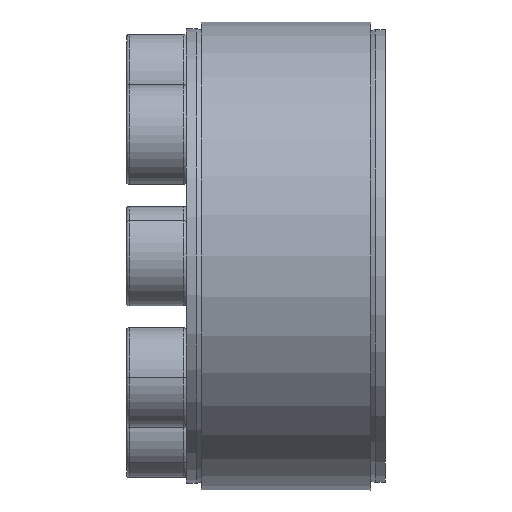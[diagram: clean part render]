
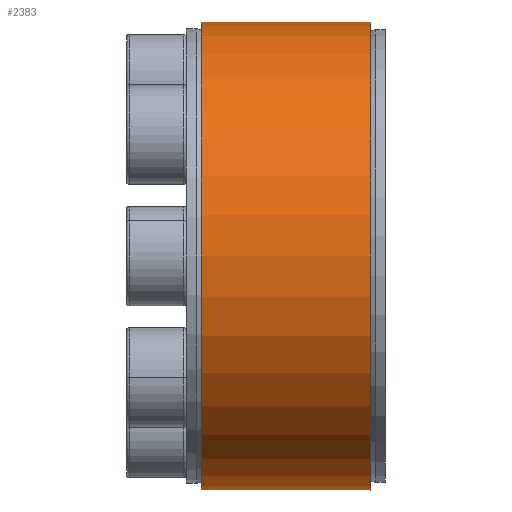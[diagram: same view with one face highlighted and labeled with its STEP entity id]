
A CAD part, front view. The second image highlights one B-rep face of the part: STEP entity #2383.
In plain terms, the highlighted cylindrical face has radius 23.5 mm (diameter 47 mm), a partial arc.
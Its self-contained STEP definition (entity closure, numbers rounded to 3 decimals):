
#53 = VERTEX_POINT ( 'NONE', #1956 ) ;
#80 = CARTESIAN_POINT ( 'NONE',  ( -8.5, 0.017, -23.5 ) ) ;
#444 = CARTESIAN_POINT ( 'NONE',  ( 8.5, 0.017, 0. ) ) ;
#673 = EDGE_CURVE ( 'NONE', #4643, #1615, #5323, .T. ) ;
#784 = CYLINDRICAL_SURFACE ( 'NONE', #5519, 23.5 ) ;
#841 = CIRCLE ( 'NONE', #4823, 23.5 ) ;
#912 = DIRECTION ( 'NONE',  ( 0., 0., 1. ) ) ;
#1222 = CARTESIAN_POINT ( 'NONE',  ( -8.5, 0.017, 23.5 ) ) ;
#1471 = VECTOR ( 'NONE', #5082, 1000. ) ;
#1568 = EDGE_LOOP ( 'NONE', ( #3333, #3832, #2034, #2705 ) ) ;
#1615 = VERTEX_POINT ( 'NONE', #4004 ) ;
#1690 = CARTESIAN_POINT ( 'NONE',  ( 8.5, 0.017, 23.5 ) ) ;
#1736 = CARTESIAN_POINT ( 'NONE',  ( -8.5, 0.017, -23.5 ) ) ;
#1936 = CIRCLE ( 'NONE', #5274, 23.5 ) ;
#1956 = CARTESIAN_POINT ( 'NONE',  ( 8.5, 0.017, -23.5 ) ) ;
#2012 = DIRECTION ( 'NONE',  ( -1., 0., 0. ) ) ;
#2034 = ORIENTED_EDGE ( 'NONE', *, *, #673, .T. ) ;
#2098 = DIRECTION ( 'NONE',  ( -1., 0., 0. ) ) ;
#2383 = ADVANCED_FACE ( 'NONE', ( #5943 ), #784, .T. ) ;
#2705 = ORIENTED_EDGE ( 'NONE', *, *, #4521, .F. ) ;
#3333 = ORIENTED_EDGE ( 'NONE', *, *, #6222, .F. ) ;
#3507 = CARTESIAN_POINT ( 'NONE',  ( -8.5, 0.017, 0. ) ) ;
#3795 = DIRECTION ( 'NONE',  ( -1., 0., 0. ) ) ;
#3832 = ORIENTED_EDGE ( 'NONE', *, *, #6033, .T. ) ;
#4003 = VERTEX_POINT ( 'NONE', #1736 ) ;
#4004 = CARTESIAN_POINT ( 'NONE',  ( -8.5, 0.017, 23.5 ) ) ;
#4521 = EDGE_CURVE ( 'NONE', #4003, #1615, #841, .T. ) ;
#4643 = VERTEX_POINT ( 'NONE', #1690 ) ;
#4715 = VECTOR ( 'NONE', #5376, 1000. ) ;
#4823 = AXIS2_PLACEMENT_3D ( 'NONE', #4993, #2098, #5475 ) ;
#4993 = CARTESIAN_POINT ( 'NONE',  ( -8.5, 0.017, 0. ) ) ;
#5082 = DIRECTION ( 'NONE',  ( -1., 0., 0. ) ) ;
#5274 = AXIS2_PLACEMENT_3D ( 'NONE', #444, #3795, #912 ) ;
#5323 = LINE ( 'NONE', #1222, #1471 ) ;
#5376 = DIRECTION ( 'NONE',  ( -1., 0., 0. ) ) ;
#5475 = DIRECTION ( 'NONE',  ( 0., 0., 1. ) ) ;
#5519 = AXIS2_PLACEMENT_3D ( 'NONE', #3507, #2012, #5881 ) ;
#5881 = DIRECTION ( 'NONE',  ( 0., 0., 1. ) ) ;
#5943 = FACE_OUTER_BOUND ( 'NONE', #1568, .T. ) ;
#6026 = LINE ( 'NONE', #80, #4715 ) ;
#6033 = EDGE_CURVE ( 'NONE', #53, #4643, #1936, .T. ) ;
#6222 = EDGE_CURVE ( 'NONE', #53, #4003, #6026, .T. ) ;
